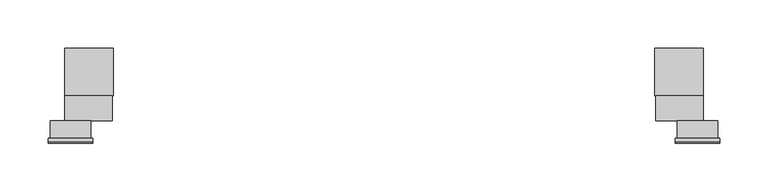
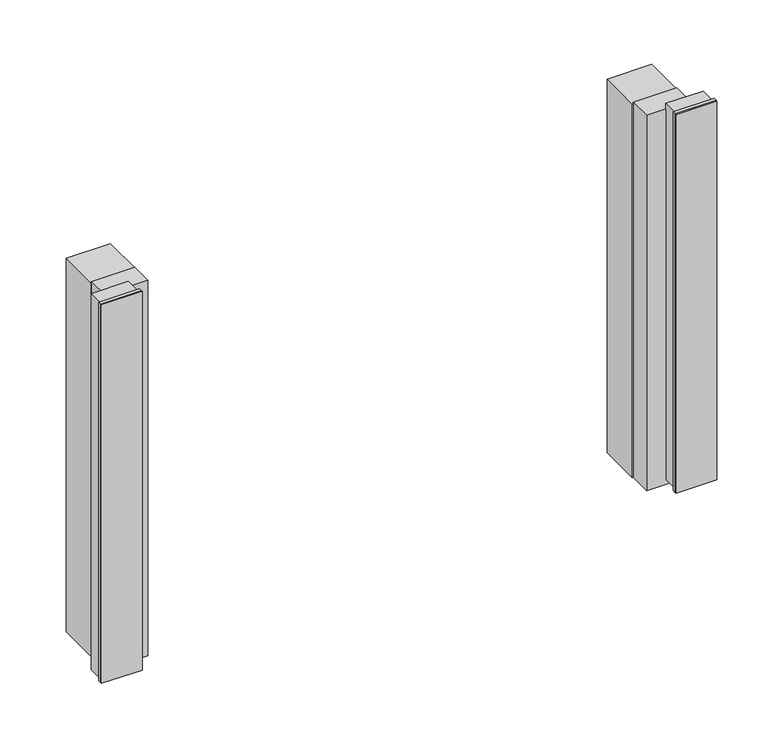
"""IFC4 building model written with IfcOpenShell, lengths in millimetres: proxy geometry, 11515830_USA_EBA7747_EDST-CLST : 29992969_USA_11515830_EBA7747_EDST-CLST."""

from ifc_helpers import new_model, si_unit, frame, origin, origin_with_axes, place, context, project, spatial, polyline, outline, extrude, source, transform, mapped, element, save


def specialty_equipment_1f1883fc(model_context):
    return source(origin(), model_context, "Body", "SweptSolid", [
        extrude(outline(polyline([(-301.5, -23.3), (-347.5, -23.3), (-347.5, -22.0), (-301.5, -22.0), (-301.5, -23.3)])), frame((0.0, 0.0, 4.0), z_axis=(0.0, 0.0, 1.0), x_axis=(1.0, 0.0, 0.0)), (0.0, 0.0, 1.0), 452.0),
        extrude(outline(polyline([(347.5, -23.3), (301.5, -23.3), (301.5, -22.0), (347.5, -22.0), (347.5, -23.3)])), frame((0.0, 0.0, 4.0), z_axis=(0.0, 0.0, 1.0), x_axis=(1.0, 0.0, 0.0)), (0.0, 0.0, 1.0), 452.0),
        extrude(outline(polyline([(-345.5, 0.0), (-303.5, 0.0), (-303.5, -18.0), (-345.5, -18.0), (-345.5, 0.0)])), frame((0.0, 0.0, 5.5), z_axis=(0.0, 0.0, 1.0), x_axis=(1.0, 0.0, 0.0)), (0.0, 0.0, 1.0), 449.0),
        extrude(outline(polyline([(303.5, 0.0), (345.5, 0.0), (345.5, -18.0), (303.5, -18.0), (303.5, 0.0)])), frame((0.0, 0.0, 5.5), z_axis=(0.0, 0.0, 1.0), x_axis=(1.0, 0.0, 0.0)), (0.0, 0.0, 1.0), 449.0),
        extrude(outline(polyline([(-347.5, -18.0), (-301.5, -18.0), (-301.5, -22.0), (-347.5, -22.0), (-347.5, -18.0)])), frame((0.0, 0.0, 4.0), z_axis=(0.0, 0.0, 1.0), x_axis=(1.0, 0.0, 0.0)), (0.0, 0.0, 1.0), 452.0),
        extrude(outline(polyline([(301.5, -18.0), (347.5, -18.0), (347.5, -22.0), (301.5, -22.0), (301.5, -18.0)])), frame((0.0, 0.0, 4.0), z_axis=(0.0, 0.0, 1.0), x_axis=(1.0, 0.0, 0.0)), (0.0, 0.0, 1.0), 452.0),
        extrude(outline(polyline([(280.5, 75.0), (330.5, 75.0), (330.5, 26.0), (280.5, 26.0), (280.5, 75.0)])), origin_with_axes(), (0.0, 0.0, 1.0), 446.0),
        extrude(outline(polyline([(-330.5, 75.0), (-280.5, 75.0), (-280.5, 26.0), (-330.5, 26.0), (-330.5, 75.0)])), origin_with_axes(), (0.0, 0.0, 1.0), 446.0),
        extrude(outline(polyline([(281.5, 26.0), (330.5, 26.0), (330.5, 0.0), (281.5, 0.0), (281.5, 26.0)])), origin_with_axes(), (0.0, 0.0, 1.0), 448.0),
        extrude(outline(polyline([(-330.5, 26.0), (-281.5, 26.0), (-281.5, 0.0), (-330.5, 0.0), (-330.5, 26.0)])), origin_with_axes(), (0.0, 0.0, 1.0), 448.0),
    ])


if __name__ == "__main__":
    model = new_model("IFC4")
    model_context = context("Model", 3, world=origin())
    ifc_project = project(units=[si_unit("LENGTHUNIT", "METRE", prefix="MILLI")], contexts=[model_context])
    site = spatial("IfcSite", under=ifc_project)
    building = spatial("IfcBuilding", under=site)
    placement = place(None, origin())
    specialty_equipment_shape = specialty_equipment_1f1883fc(model_context)
    element("IfcBuildingElementProxy", 1, Name="11515830_USA_EBA7747_EDST-CLST : 29992969_USA_11515830_EBA7747_EDST-CLST", ObjectType="11515830_USA_EBA7747_EDST-CLST : 29992969_USA_11515830_EBA7747_EDST-CLST", at=placement, inside=building, context=model_context, shape_type="MappedRepresentation", body=[
        mapped(specialty_equipment_shape, transform((0.0, 0.0, 0.0), x_axis=(1.0, 0.0, 0.0), y_axis=(0.0, 1.0, 0.0), z_axis=(0.0, 0.0, 1.0))),
    ])
    save(model, "model.ifc")
